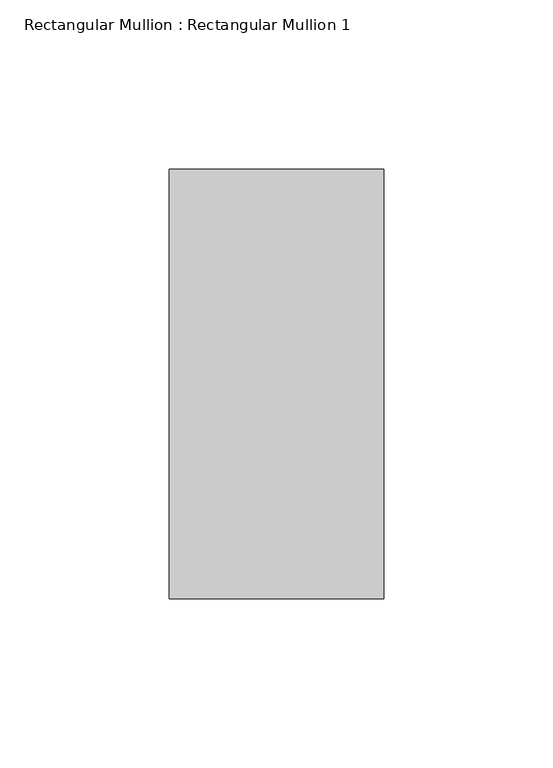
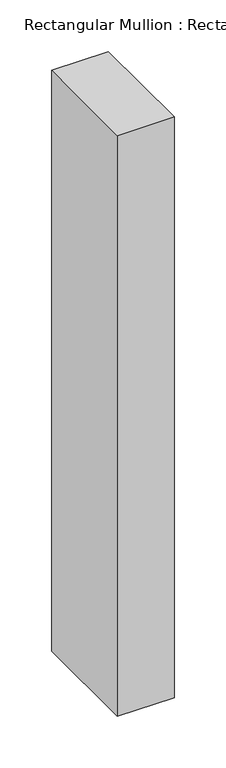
"""IFC4 building model written with IfcOpenShell, lengths in millimetres: member geometry, Rectangular Mullion : Rectangular Mullion 1."""

from ifc_helpers import new_model, si_unit, frame, origin, place, context, project, spatial, polyline, outline, extrude, source, transform, mapped, element, save


def rectangular_mullion_rectangular_mullion_1_004a76be(model_context):
    return source(origin(), model_context, "Body", "SweptSolid", [
        extrude(outline(polyline([(0.0, 63.5), (0.0, -63.5), (-63.5, -63.5), (-63.5, 63.5), (0.0, 63.5)])), frame((0.0, 0.0, -686.4999998), z_axis=(0.0, 0.0, 1.0), x_axis=(1.0, 0.0, 0.0)), (0.0, 0.0, 1.0), 686.4999998),
    ])


if __name__ == "__main__":
    model = new_model("IFC4")
    model_context = context("Model", 3, world=origin())
    ifc_project = project(units=[si_unit("LENGTHUNIT", "METRE", prefix="MILLI")], contexts=[model_context])
    site = spatial("IfcSite", under=ifc_project)
    building = spatial("IfcBuilding", under=site)
    placement = place(None, origin())
    rectangular_mullion_rectangular_mullion_1_shape = rectangular_mullion_rectangular_mullion_1_004a76be(model_context)
    element("IfcMember", 1, ObjectType="Rectangular Mullion : Rectangular Mullion 1", at=placement, inside=building, context=model_context, shape_type="MappedRepresentation", body=[
        mapped(rectangular_mullion_rectangular_mullion_1_shape, transform((0.0, 0.0, 0.0), x_axis=(1.0, 0.0, 0.0), y_axis=(0.0, 1.0, 0.0), z_axis=(0.0, 0.0, 1.0))),
    ])
    save(model, "model.ifc")
